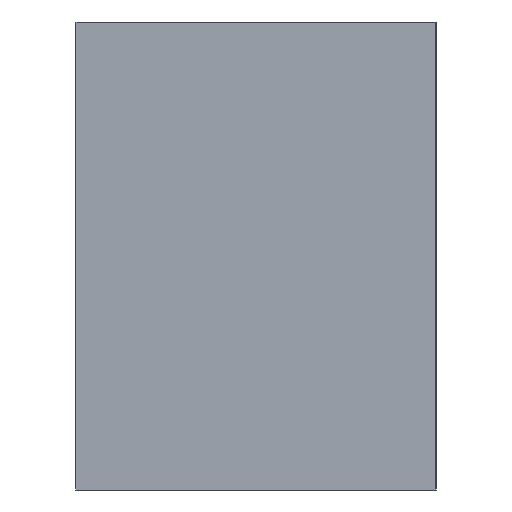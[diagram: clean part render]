
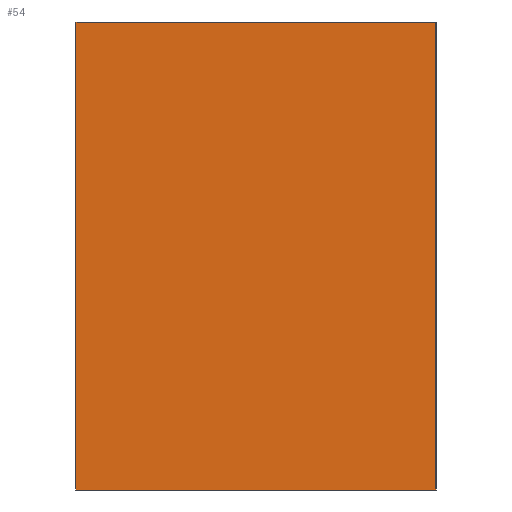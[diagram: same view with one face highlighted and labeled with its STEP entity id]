
A CAD part, left-side view. The second image highlights one B-rep face of the part: STEP entity #54.
In plain terms, the highlighted planar face has unit normal (-1, 0, 0).
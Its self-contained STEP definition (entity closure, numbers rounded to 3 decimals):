
#54=ADVANCED_FACE('',(#67),#68,.F.);
#67=FACE_OUTER_BOUND('',#86,.T.);
#68=PLANE('',#87);
#86=EDGE_LOOP('',(#120,#121,#122,#123));
#87=AXIS2_PLACEMENT_3D('',#124,#125,#126);
#120=ORIENTED_EDGE('',*,*,#170,.F.);
#121=ORIENTED_EDGE('',*,*,#171,.F.);
#122=ORIENTED_EDGE('',*,*,#172,.T.);
#123=ORIENTED_EDGE('',*,*,#173,.T.);
#124=CARTESIAN_POINT('',(177.,-16.25,2.9));
#125=DIRECTION('',(1.0,0.,0.));
#126=DIRECTION('',(0.,1.0,0.));
#170=EDGE_CURVE('',#196,#197,#198,.T.);
#171=EDGE_CURVE('',#199,#196,#200,.T.);
#172=EDGE_CURVE('',#199,#201,#202,.T.);
#173=EDGE_CURVE('',#201,#197,#203,.T.);
#196=VERTEX_POINT('',#232);
#197=VERTEX_POINT('',#233);
#198=LINE('',#234,#235);
#199=VERTEX_POINT('',#236);
#200=LINE('',#237,#238);
#201=VERTEX_POINT('',#239);
#202=LINE('',#240,#241);
#203=LINE('',#242,#243);
#232=CARTESIAN_POINT('',(177.,-11.25,2.9));
#233=CARTESIAN_POINT('',(177.,-11.25,9.4));
#234=CARTESIAN_POINT('',(177.,-11.25,2.9));
#235=VECTOR('',#270,1.);
#236=CARTESIAN_POINT('',(177.,-16.25,2.9));
#237=CARTESIAN_POINT('',(177.,-16.25,2.9));
#238=VECTOR('',#271,0.29);
#239=CARTESIAN_POINT('',(177.,-16.25,9.4));
#240=CARTESIAN_POINT('',(177.,-16.25,2.9));
#241=VECTOR('',#272,1.);
#242=CARTESIAN_POINT('',(177.,-16.25,9.4));
#243=VECTOR('',#273,0.29);
#270=DIRECTION('',(0.,0.,1.0));
#271=DIRECTION('',(0.,1.0,0.));
#272=DIRECTION('',(0.,0.,1.0));
#273=DIRECTION('',(0.,1.0,0.));
